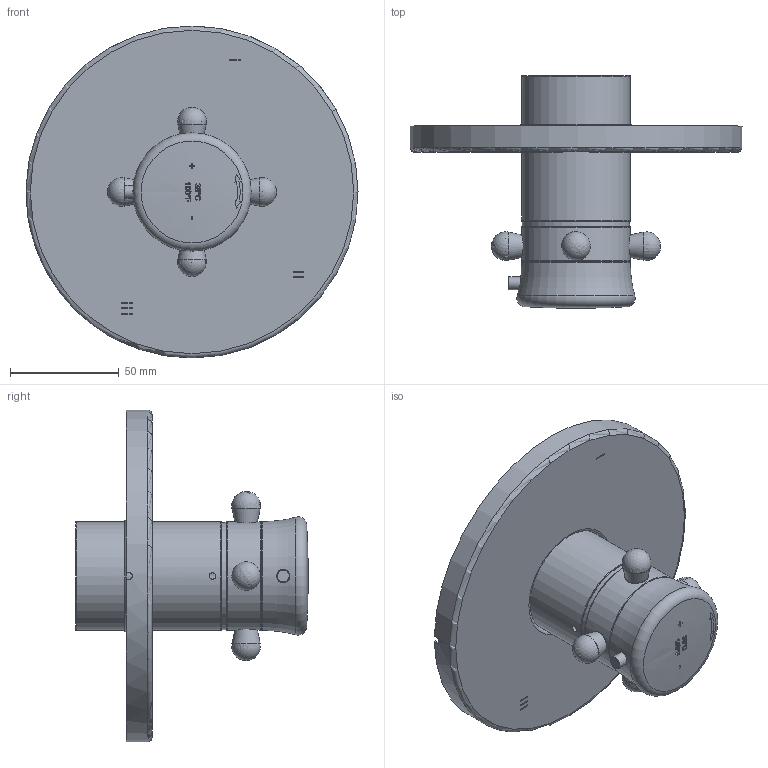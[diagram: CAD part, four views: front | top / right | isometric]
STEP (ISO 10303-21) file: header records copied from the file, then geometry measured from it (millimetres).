
FILE_DESCRIPTION(/* description */ (''),/* implementation_level */ '2;1');
FILE_NAME(/* name */ 'X:\Collections\Classique\Manhattan\MA47\TMA47+ 3D.stp',/* time_stamp */ '2017-05-15T16:12:08-04:00',/* author */ ('simono'),/* organization */ (''),/* preprocessor_version */ 'ST-DEVELOPER v15.6',/* originating_system */ 'Autodesk Inventor 2015',/* authorisation */ '');
FILE_SCHEMA (('AUTOMOTIVE_DESIGN { 1 0 10303 214 3 1 1 }'));
Length unit declared in the file: millimetre
Products named in the file (17): 053-004; 050-645; 052-071; 002-692; 152-120; 1813; 009-077; 009-078; 390-132; 002-911; 1845; 001-269; 1815; 152-160; 1812; 1658; TMA47
Assembly tree (19 placements, depth 5):
  TMA47
    053-004
    050-645
    052-071
    1658
      1815
        1813  x2
          002-692
          152-120
        1845
          009-077
          009-078
          390-132
          002-911
        001-269
      1812  x2
        002-692
        152-160
Bounding box: 153 x 107.1 x 153 mm (x, y, z)
Volume: 86490.3 mm3; surface area: 102763.2 mm2
Topology: 16 solids, 16 shells, 607 faces, 1544 edges, 1004 vertices
Faces by surface type: plane 234, bspline 128, cylinder 111, cone 87, torus 43, sphere 4
Full cylindrical faces by diameter (mm): 2.2 x1, 2.5 x2, 3 x1, 3.242 x1, 3.342 x1, 4.134 x4, 5 x6, 6 x1, 6.1 x1, 10.5 x4, 12 x1, 15 x1, 18 x1, 19 x1, 19.75 x1, 21 x1, 23 x1, 25 x1, 28.2 x2, 29.2 x1, 32.2 x2, 34.3 x2, 35.3 x1, 37.5 x1, 43.2 x1, 45 x1, 46 x1, 46.6 x1, 47 x2, 49.5 x1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
Entity records: 23812 total; most frequent: CARTESIAN_POINT 11474, ORIENTED_EDGE 2590, DIRECTION 2155, EDGE_CURVE 1295, VERTEX_POINT 898, AXIS2_PLACEMENT_3D 820, EDGE_LOOP 725, ADVANCED_FACE 560
